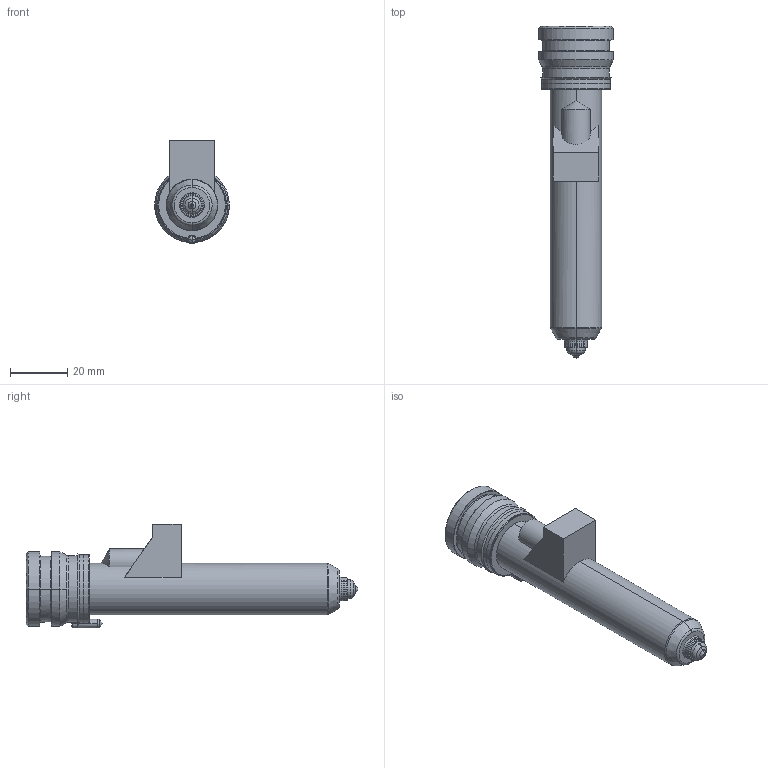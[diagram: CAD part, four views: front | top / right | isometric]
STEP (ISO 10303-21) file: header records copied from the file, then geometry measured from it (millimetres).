
FILE_DESCRIPTION((''),'2;1');
FILE_NAME('TH18097_5-M-1B15-PK-JG','2023-12-14T',('umhib'),('Thermoplay S.p.A.'),'PRO/ENGINEER BY PARAMETRIC TECHNOLOGY CORPORATION, 2017170','PRO/ENGINEER BY PARAMETRIC TECHNOLOGY CORPORATION, 2017170','');
FILE_SCHEMA(('CONFIG_CONTROL_DESIGN'));
Length unit declared in the file: millimetre
Products named in the file (1): TH18097_5-M-1B15-PK-JG
Bounding box: 26 x 115.5 x 36.1 mm (x, y, z)
Volume: 24282.8 mm3; surface area: 18672.3 mm2
Topology: 1 solids, 2 shells, 393 faces, 1003 edges, 615 vertices
Faces by surface type: cylinder 149, plane 87, cone 64, torus 58, bspline 22, sphere 11, extrusion 2
Entity records: 16877 total; most frequent: CARTESIAN_POINT 5194, DIRECTION 2010, ORIENTED_EDGE 1980, EDGE_CURVE 992, AXIS2_PLACEMENT_3D 810, VERTEX_POINT 615, CIRCLE 440, EDGE_LOOP 416
